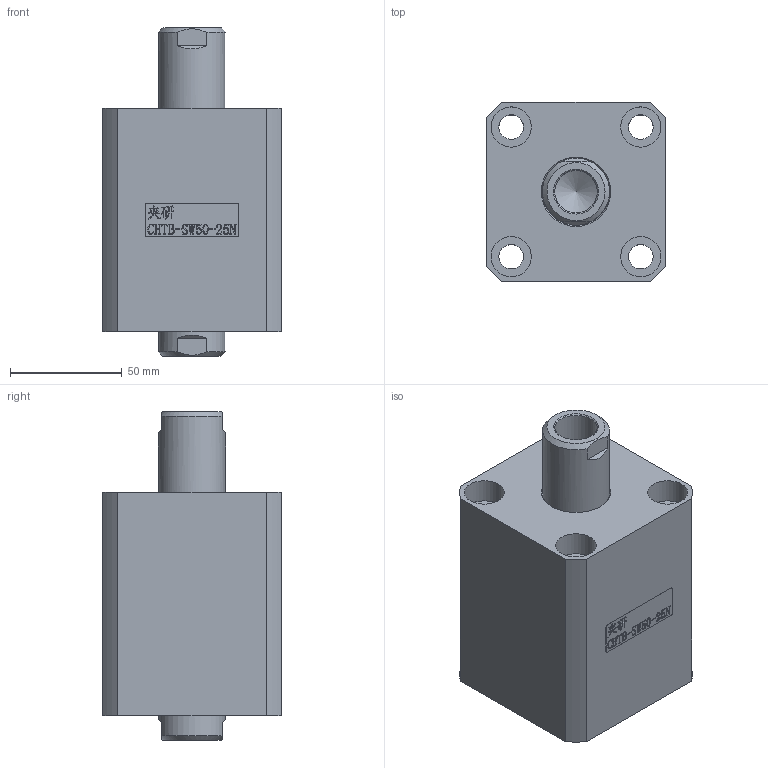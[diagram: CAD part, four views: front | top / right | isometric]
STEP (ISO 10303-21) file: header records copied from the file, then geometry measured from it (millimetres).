
FILE_DESCRIPTION(/* description */ (''),/* implementation_level */ '2;1');
FILE_NAME(/* name */ 'CHTB-SW50-25N.stp',/* time_stamp */ '2022-04-29T18:26:48+08:00',/* author */ (''),/* organization */ (''),/* preprocessor_version */ 'ST-DEVELOPER v16.7',/* originating_system */ 'SIEMENS PLM Software NX 12.0',/* authorisation */ '');
FILE_SCHEMA (('AUTOMOTIVE_DESIGN { 1 0 10303 214 3 1 1 1 }'));
Length unit declared in the file: millimetre
Products named in the file (1): CHTB-SW50-25N
Bounding box: 80 x 80 x 147 mm (x, y, z)
Volume: 554190.1 mm3; surface area: 111910.5 mm2
Topology: 3 solids, 3 shells, 441 faces, 1208 edges, 821 vertices
Faces by surface type: plane 274, extrusion 80, cylinder 55, cone 16, torus 12, bspline 4
Full cylindrical faces by diameter (mm): 4.2 x2, 6 x2, 10.7 x2, 11 x4, 18 x8, 19 x2, 30 x4, 39 x1, 44 x2, 45 x1, 46 x1, 50 x6, 55 x9, 59 x1
Entity records: 19751 total; most frequent: CARTESIAN_POINT 7257, ORIENTED_EDGE 2220, DIRECTION 1750, EDGE_CURVE 1110, VECTOR 812, VERTEX_POINT 803, LINE 732, EDGE_LOOP 563
